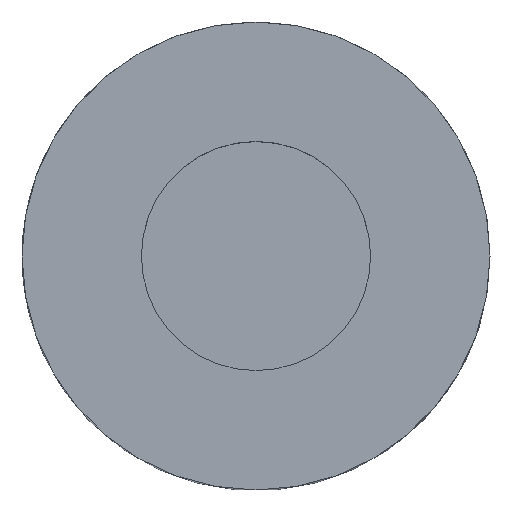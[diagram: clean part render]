
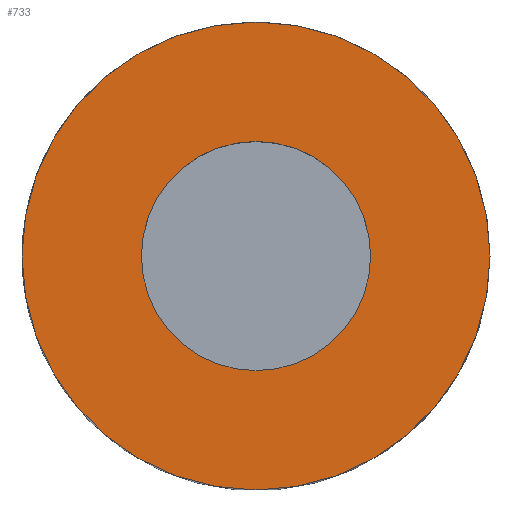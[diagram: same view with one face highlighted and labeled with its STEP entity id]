
A CAD part, top view. The second image highlights one B-rep face of the part: STEP entity #733.
In plain terms, the highlighted planar face has unit normal (0, 0, 1).
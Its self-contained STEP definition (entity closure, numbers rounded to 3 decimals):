
#33 = CYLINDRICAL_SURFACE('',#34,4.9);
#34 = AXIS2_PLACEMENT_3D('',#35,#36,#37);
#35 = CARTESIAN_POINT('',(161.,96.,24.5));
#36 = DIRECTION('',(-0.,-0.,-1.));
#37 = DIRECTION('',(1.,0.,0.));
#58 = VERTEX_POINT('',#59);
#59 = CARTESIAN_POINT('',(165.9,96.,32.3));
#80 = EDGE_CURVE('',#58,#58,#81,.T.);
#81 = SURFACE_CURVE('',#82,(#87,#94),.PCURVE_S1.);
#82 = CIRCLE('',#83,4.9);
#83 = AXIS2_PLACEMENT_3D('',#84,#85,#86);
#84 = CARTESIAN_POINT('',(161.,96.,32.3));
#85 = DIRECTION('',(0.,0.,1.));
#86 = DIRECTION('',(1.,0.,0.));
#87 = PCURVE('',#33,#88);
#88 = DEFINITIONAL_REPRESENTATION('',(#89),#93);
#89 = LINE('',#90,#91);
#90 = CARTESIAN_POINT('',(-0.,-7.8));
#91 = VECTOR('',#92,1.);
#92 = DIRECTION('',(-1.,0.));
#93 = ( GEOMETRIC_REPRESENTATION_CONTEXT(2) 
PARAMETRIC_REPRESENTATION_CONTEXT() REPRESENTATION_CONTEXT('2D SPACE',''
  ) );
#94 = PCURVE('',#95,#100);
#95 = PLANE('',#96);
#96 = AXIS2_PLACEMENT_3D('',#97,#98,#99);
#97 = CARTESIAN_POINT('',(161.,96.,32.3));
#98 = DIRECTION('',(0.,0.,1.));
#99 = DIRECTION('',(1.,0.,-0.));
#100 = DEFINITIONAL_REPRESENTATION('',(#101),#105);
#101 = CIRCLE('',#102,4.9);
#102 = AXIS2_PLACEMENT_2D('',#103,#104);
#103 = CARTESIAN_POINT('',(0.,0.));
#104 = DIRECTION('',(1.,0.));
#105 = ( GEOMETRIC_REPRESENTATION_CONTEXT(2) 
PARAMETRIC_REPRESENTATION_CONTEXT() REPRESENTATION_CONTEXT('2D SPACE',''
  ) );
#733 = ADVANCED_FACE('',(#734,#737),#95,.T.);
#734 = FACE_BOUND('',#735,.T.);
#735 = EDGE_LOOP('',(#736));
#736 = ORIENTED_EDGE('',*,*,#80,.T.);
#737 = FACE_BOUND('',#738,.T.);
#738 = EDGE_LOOP('',(#739));
#739 = ORIENTED_EDGE('',*,*,#740,.T.);
#740 = EDGE_CURVE('',#741,#741,#743,.T.);
#741 = VERTEX_POINT('',#742);
#742 = CARTESIAN_POINT('',(163.4,96.,32.3));
#743 = SURFACE_CURVE('',#744,(#749,#760),.PCURVE_S1.);
#744 = CIRCLE('',#745,2.4);
#745 = AXIS2_PLACEMENT_3D('',#746,#747,#748);
#746 = CARTESIAN_POINT('',(161.,96.,32.3));
#747 = DIRECTION('',(0.,0.,-1.));
#748 = DIRECTION('',(1.,0.,0.));
#749 = PCURVE('',#95,#750);
#750 = DEFINITIONAL_REPRESENTATION('',(#751),#759);
#751 = ( BOUNDED_CURVE() B_SPLINE_CURVE(2,(#752,#753,#754,#755,#756,#757
,#758),.UNSPECIFIED.,.T.,.F.) B_SPLINE_CURVE_WITH_KNOTS((1,2,2,2,2,1),(
    -2.094,0.,2.094,4.189,6.283,
8.378),.UNSPECIFIED.) CURVE() GEOMETRIC_REPRESENTATION_ITEM() 
RATIONAL_B_SPLINE_CURVE((1.,0.5,1.,0.5,1.,0.5,1.)) REPRESENTATION_ITEM(
  '') );
#752 = CARTESIAN_POINT('',(2.4,0.));
#753 = CARTESIAN_POINT('',(2.4,-4.157));
#754 = CARTESIAN_POINT('',(-1.2,-2.078));
#755 = CARTESIAN_POINT('',(-4.8,0.));
#756 = CARTESIAN_POINT('',(-1.2,2.078));
#757 = CARTESIAN_POINT('',(2.4,4.157));
#758 = CARTESIAN_POINT('',(2.4,0.));
#759 = ( GEOMETRIC_REPRESENTATION_CONTEXT(2) 
PARAMETRIC_REPRESENTATION_CONTEXT() REPRESENTATION_CONTEXT('2D SPACE',''
  ) );
#760 = PCURVE('',#761,#766);
#761 = CYLINDRICAL_SURFACE('',#762,2.4);
#762 = AXIS2_PLACEMENT_3D('',#763,#764,#765);
#763 = CARTESIAN_POINT('',(161.,96.,30.3));
#764 = DIRECTION('',(-0.,-0.,-1.));
#765 = DIRECTION('',(1.,0.,0.));
#766 = DEFINITIONAL_REPRESENTATION('',(#767),#771);
#767 = LINE('',#768,#769);
#768 = CARTESIAN_POINT('',(-6.283,-2.));
#769 = VECTOR('',#770,1.);
#770 = DIRECTION('',(1.,-0.));
#771 = ( GEOMETRIC_REPRESENTATION_CONTEXT(2) 
PARAMETRIC_REPRESENTATION_CONTEXT() REPRESENTATION_CONTEXT('2D SPACE',''
  ) );
